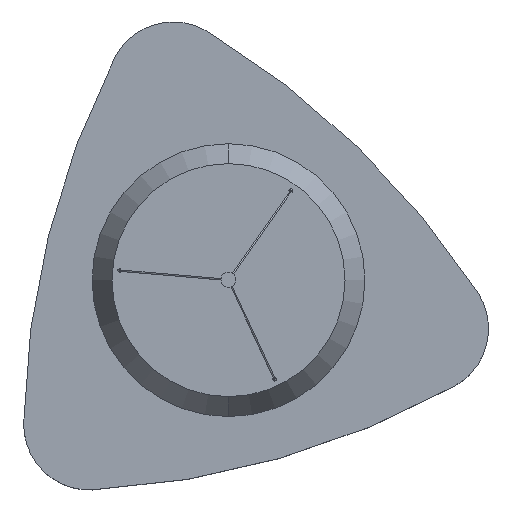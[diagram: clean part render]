
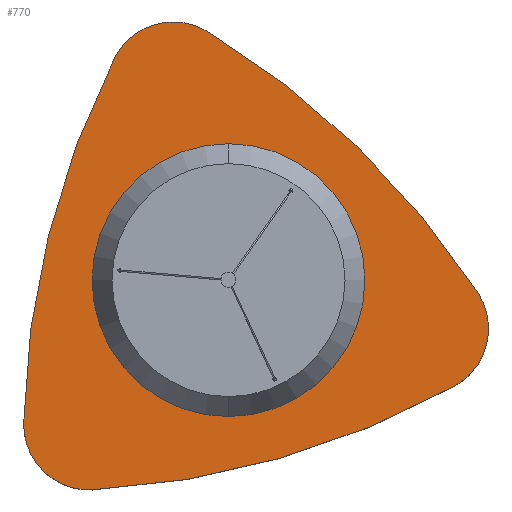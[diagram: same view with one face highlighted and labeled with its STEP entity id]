
A CAD part, top view. The second image highlights one B-rep face of the part: STEP entity #770.
In plain terms, the highlighted planar face has unit normal (0, 0, 1).
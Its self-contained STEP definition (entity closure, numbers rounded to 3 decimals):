
#10=CARTESIAN_POINT('',(-191.953,-196.835,
-4.8));
#20=DIRECTION('',(0.,0.,1.));
#30=DIRECTION('',(1.,0.,0.));
#40=AXIS2_PLACEMENT_3D('',#10,#20,#30);
#50=PLANE('',#40);
#60=CARTESIAN_POINT('',(681.448,-169.904,
-4.8));
#70=DIRECTION('',(0.,0.,1.));
#80=DIRECTION('',(1.,0.,0.));
#90=AXIS2_PLACEMENT_3D('',#60,#70,#80);
#100=CIRCLE('',#90,900.);
#110=CARTESIAN_POINT('',(-121.319,236.992,
-4.8));
#120=VERTEX_POINT('',#110);
#130=CARTESIAN_POINT('',(-218.379,-152.296,
-4.8));
#140=VERTEX_POINT('',#130);
#150=EDGE_CURVE('',#120,#140,#100,.T.);
#160=ORIENTED_EDGE('',*,*,#150,.T.);
#170=CARTESIAN_POINT('',(-58.882,205.344,
-4.8));
#180=DIRECTION('',(0.,0.,1.));
#190=DIRECTION('',(1.,0.,0.));
#200=AXIS2_PLACEMENT_3D('',#170,#180,#190);
#210=CIRCLE('',#200,70.);
#220=CARTESIAN_POINT('',(-22.702,265.27,
-4.8));
#230=VERTEX_POINT('',#220);
#240=EDGE_CURVE('',#230,#120,#210,.T.);
#250=ORIENTED_EDGE('',*,*,#240,.T.);
#260=CARTESIAN_POINT('',(-487.866,-505.2,
-4.8));
#270=DIRECTION('',(0.,0.,1.));
#280=DIRECTION('',(1.,0.,0.));
#290=AXIS2_PLACEMENT_3D('',#260,#270,#280);
#300=CIRCLE('',#290,900.);
#310=CARTESIAN_POINT('',(265.9,-13.431,
-4.8));
#320=VERTEX_POINT('',#310);
#330=EDGE_CURVE('',#320,#230,#300,.T.);
#340=ORIENTED_EDGE('',*,*,#330,.T.);
#350=CARTESIAN_POINT('',(207.274,-51.679,
-4.8));
#360=DIRECTION('',(0.,0.,1.));
#370=DIRECTION('',(1.,0.,0.));
#380=AXIS2_PLACEMENT_3D('',#350,#360,#370);
#390=CIRCLE('',#380,70.);
#400=CARTESIAN_POINT('',(241.081,-112.974,
-4.8));
#410=VERTEX_POINT('',#400);
#420=EDGE_CURVE('',#410,#320,#390,.T.);
#430=ORIENTED_EDGE('',*,*,#420,.T.);
#440=CARTESIAN_POINT('',(-193.583,675.104,
-4.8));
#450=DIRECTION('',(0.,0.,1.));
#460=DIRECTION('',(1.,0.,0.));
#470=AXIS2_PLACEMENT_3D('',#440,#450,#460);
#480=CIRCLE('',#470,900.);
#490=CARTESIAN_POINT('',(-144.581,-223.561,
-4.8));
#500=VERTEX_POINT('',#490);
#510=EDGE_CURVE('',#500,#410,#480,.T.);
#520=ORIENTED_EDGE('',*,*,#510,.T.);
#530=CARTESIAN_POINT('',(-148.393,-153.665,
-4.8));
#540=DIRECTION('',(0.,0.,1.));
#550=DIRECTION('',(1.,0.,0.));
#560=AXIS2_PLACEMENT_3D('',#530,#540,#550);
#570=CIRCLE('',#560,70.);
#580=EDGE_CURVE('',#140,#500,#570,.T.);
#590=ORIENTED_EDGE('',*,*,#580,.T.);
#600=EDGE_LOOP('',(#590,#520,#430,#340,#250,#160));
#610=FACE_OUTER_BOUND('',#600,.T.);
#620=CARTESIAN_POINT('',(0.,0.,
-4.8));
#630=DIRECTION('',(0.,0.,-1.));
#640=DIRECTION('',(0.,-1.,0.));
#650=AXIS2_PLACEMENT_3D('',#620,#630,#640);
#660=CIRCLE('',#650,145.476);
#670=CARTESIAN_POINT('',(0.,-145.476,
-4.8));
#680=VERTEX_POINT('',#670);
#690=CARTESIAN_POINT('',(0.,145.476,
-4.8));
#700=VERTEX_POINT('',#690);
#710=EDGE_CURVE('',#680,#700,#660,.T.);
#720=ORIENTED_EDGE('',*,*,#710,.T.);
#730=EDGE_CURVE('',#700,#680,#660,.T.);
#740=ORIENTED_EDGE('',*,*,#730,.T.);
#750=EDGE_LOOP('',(#740,#720));
#760=FACE_BOUND('',#750,.T.);
#770=ADVANCED_FACE('',(#610,#760),#50,.T.);
